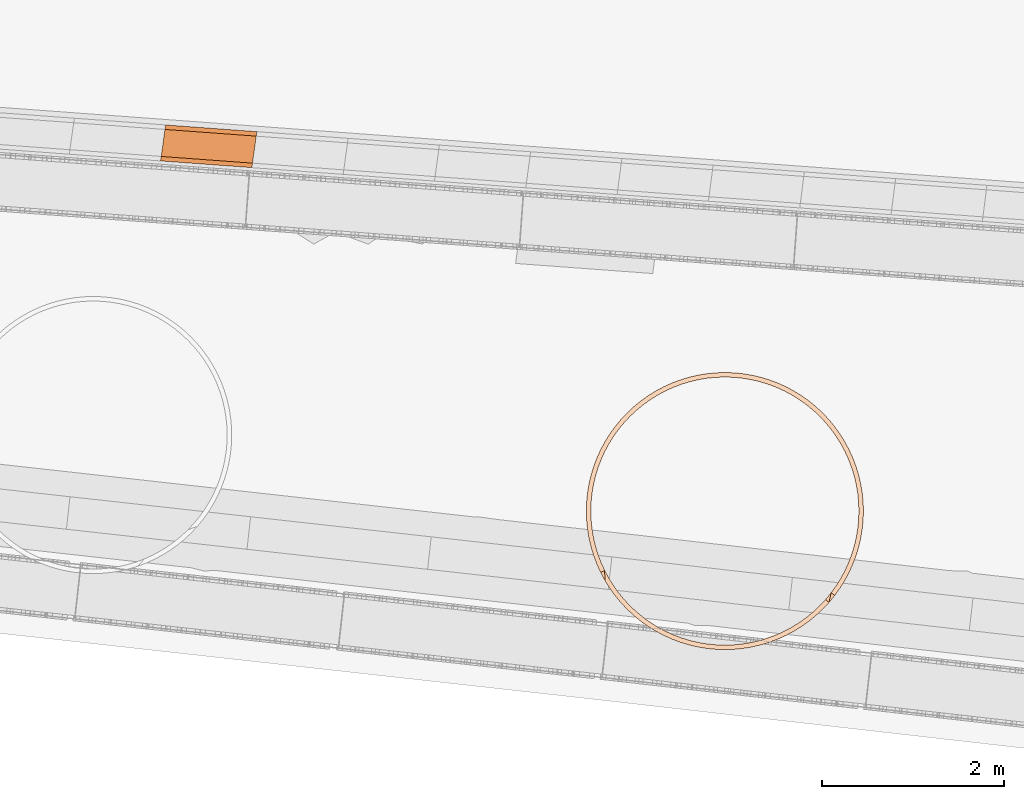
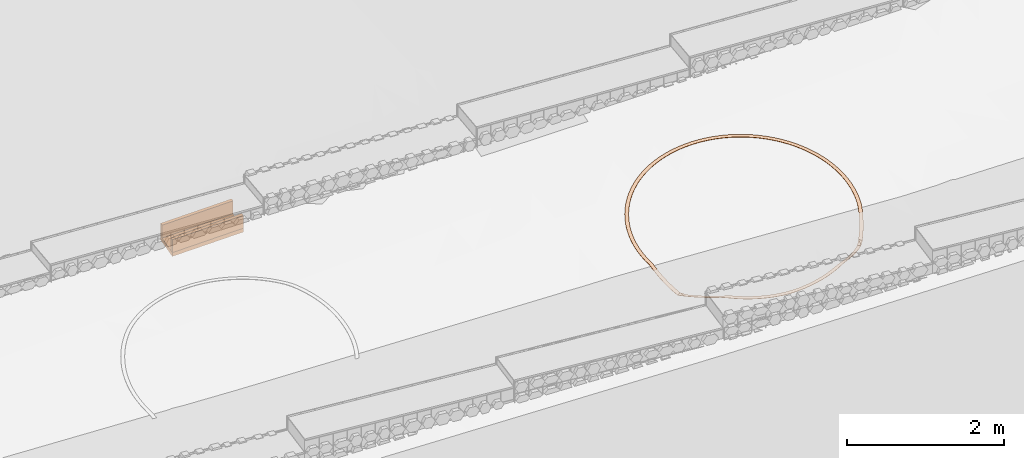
# Not in any storey, part 22 of 46: 3 proxies, 1 geographic element.
"""IFC4 model written with IfcOpenShell, lengths in metres."""

from ifc_helpers import new_model, si_unit, direction, frame, origin_with_axes, place, context, subcontext, project, spatial, polygons, material, element, save


model = new_model("IFC4")

# Units and contexts
model_context = context("Model", 3, precision=1e-05, world=origin_with_axes(), true_north=direction((0.0, 1.0)))
body_context = subcontext(model_context, "Body", "Model", "MODEL_VIEW")
ifc_project = project(units=[si_unit("VOLUMEUNIT", "CUBIC_METRE"), si_unit("LENGTHUNIT", "METRE"), si_unit("AREAUNIT", "SQUARE_METRE")], contexts=[model_context])

# Site
site_placement = place(None, origin_with_axes())
site = spatial("IfcSite", under=ifc_project, at=site_placement, Name="Lares · Rua das Mercês · artigo 4771")

# Proxies
ifc_material_1 = material(Name="Caleiras · betão", Category="concrete")
proxy_1_placement = place(site_placement, frame((0.0, 0.0, 0.0), z_axis=(0.0, 0.0, 1.0), x_axis=(1.0, -1.03767253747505e-17, 0.0)))
element("IfcBuildingElementProxy", 1, at=proxy_1_placement, inside=site, material=ifc_material_1, Name="Acesso · canal lateral", ObjectType="Acesso · canal lateral", PredefinedType="USERDEFINED", context=body_context, shape_type="Tessellation", body=[
    polygons([(54.6079243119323, 2.15614541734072, 13.7833741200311), (54.6631213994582, 2.55231871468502, 13.7833741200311), (55.6677633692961, 2.47844142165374, 13.8578321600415), (55.6125662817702, 2.08226812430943, 13.8578321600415), (54.6079243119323, 2.15614541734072, 13.8433741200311), (54.6631213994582, 2.55231871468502, 13.8433741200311), (55.6677633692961, 2.47844142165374, 13.9178321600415), (55.6125662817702, 2.08226812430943, 13.9178321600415)], [[[4, 3, 2, 1]], [[5, 6, 7, 8]], [[1, 2, 6, 5]], [[2, 3, 7, 6]], [[3, 4, 8, 7]], [[4, 1, 5, 8]]]),
])
proxy_2_placement = place(site_placement, frame((0.0, 0.0, 0.0), z_axis=(0.0, 0.0, 1.0), x_axis=(1.0, -1.03767253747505e-17, 0.0)))
element("IfcBuildingElementProxy", 2, at=proxy_2_placement, inside=site, material=ifc_material_1, Name="Acesso · canal lateral", ObjectType="Acesso · canal lateral", PredefinedType="USERDEFINED", context=body_context, shape_type="Tessellation", body=[
    polygons([(54.6079243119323, 2.15614541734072, 13.8433741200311), (54.614823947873, 2.20566707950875, 13.8433741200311), (55.6194659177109, 2.13178978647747, 13.9178321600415), (55.6125662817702, 2.08226812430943, 13.9178321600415), (54.6079243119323, 2.15614541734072, 14.0433741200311), (54.614823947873, 2.20566707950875, 14.0433741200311), (55.6194659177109, 2.13178978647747, 14.1178321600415), (55.6125662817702, 2.08226812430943, 14.1178321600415)], [[[4, 3, 2, 1]], [[5, 6, 7, 8]], [[1, 2, 6, 5]], [[2, 3, 7, 6]], [[3, 4, 8, 7]], [[4, 1, 5, 8]]]),
])
proxy_3_placement = place(site_placement, frame((0.0, 0.0, 0.0), z_axis=(0.0, 0.0, 1.0), x_axis=(1.0, -1.03767253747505e-17, 0.0)))
element("IfcBuildingElementProxy", 3, at=proxy_3_placement, inside=site, material=ifc_material_1, Name="Acesso · canal lateral", ObjectType="Acesso · canal lateral", PredefinedType="USERDEFINED", context=body_context, shape_type="Tessellation", body=[
    polygons([(54.6562217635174, 2.50279705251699, 13.8433741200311), (54.6631213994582, 2.55231871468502, 13.8433741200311), (55.6677633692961, 2.47844142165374, 13.9178321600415), (55.6608637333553, 2.4289197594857, 13.9178321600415), (54.6562217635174, 2.50279705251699, 14.0433741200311), (54.6631213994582, 2.55231871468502, 14.0433741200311), (55.6677633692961, 2.47844142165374, 14.1178321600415), (55.6608637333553, 2.4289197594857, 14.1178321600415)], [[[4, 3, 2, 1]], [[5, 6, 7, 8]], [[1, 2, 6, 5]], [[2, 3, 7, 6]], [[3, 4, 8, 7]], [[4, 1, 5, 8]]]),
])

# Geographic element
ifc_material_2 = material(Name="Marcação de plantação · linha no terreno", Category="stone")
geographic_element_placement = place(site_placement, frame((0.0, 0.0, 0.0), z_axis=(0.0, 0.0, 1.0), x_axis=(1.0, -1.03767253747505e-17, 0.0)))
element("IfcGeographicElement", 4, at=geographic_element_placement, inside=site, material=ifc_material_2, Name="Marcação no solo · árvore indicativa 08", ObjectType="Marcação no solo · árvore indicativa 08", PredefinedType="USERDEFINED", context=body_context, shape_type="Tessellation", body=[
    polygons([(62.2936032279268, -1.69761370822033, 14.6360946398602), (62.2936032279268, -1.69761370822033, 14.6400946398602), (62.3436032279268, -1.69761370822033, 14.6385540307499), (62.3436032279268, -1.69761370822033, 14.6425540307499), (62.2904451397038, -1.60114409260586, 14.6490453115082), (62.2904451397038, -1.60114409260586, 14.6530453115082), (62.3403380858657, -1.59787393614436, 14.6519437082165), (62.3403380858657, -1.59787393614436, 14.6559437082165), (62.2809843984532, -1.50508757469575, 14.6616298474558), (62.2809843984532, -1.50508757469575, 14.6656298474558), (62.3305566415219, -1.49856126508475, 14.664954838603), (62.3305566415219, -1.49856126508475, 14.668954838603), (62.2652615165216, -1.40985548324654, 14.673794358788), (62.2652615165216, -1.40985548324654, 14.677794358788), (62.3143007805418, -1.40010096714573, 14.6775317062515), (62.3143007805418, -1.40010096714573, 14.6815317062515), (62.2433438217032, -1.31585561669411, 14.6854867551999), (62.2433438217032, -1.31585561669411, 14.6894867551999), (62.2916401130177, -1.30291466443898, 14.6896204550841), (62.2916401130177, -1.30291466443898, 14.6936204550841), (62.2153251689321, -1.22349049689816, 14.6966569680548), (62.2153251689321, -1.22349049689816, 14.7006569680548), (62.2626716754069, -1.207418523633, 14.7011693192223), (62.2626716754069, -1.207418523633, 14.7051693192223), (62.181325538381, -1.13315564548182, 14.7072571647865), (62.181325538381, -1.13315564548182, 14.7112571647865), (62.2275195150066, -1.11402147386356, 14.7121288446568), (62.2275195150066, -1.11402147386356, 14.7161288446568), (62.1414905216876, -1.0452378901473, 14.7172419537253), (62.1414905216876, -1.0452378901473, 14.7212419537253), (62.1863341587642, -1.02312345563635, 14.7224521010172), (62.1863341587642, -1.02312345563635, 14.7264521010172), (62.0959906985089, -0.960113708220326, 14.7265685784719), (62.0959906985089, -0.960113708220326, 14.7305685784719), (62.1392919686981, -0.935113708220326, 14.7320948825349), (62.1392919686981, -0.935113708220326, 14.7360948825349), (62.0450209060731, -0.878147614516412, 14.7351971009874), (62.0450209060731, -0.878147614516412, 14.7391971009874), (62.0865943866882, -0.850369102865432, 14.741015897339), (62.0865943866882, -0.850369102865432, 14.745015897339), (61.9887994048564, -0.799690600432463, 14.7430905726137), (61.9887994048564, -0.799690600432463, 14.7470905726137), (62.028467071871, -0.769252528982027, 14.7491769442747), (62.028467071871, -0.769252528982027, 14.7531769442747), (61.9275669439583, -0.725078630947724, 14.7502151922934), (61.9275669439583, -0.725078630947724, 14.7542151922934), (61.9651589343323, -0.692111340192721, 14.7565430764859), (61.9651589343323, -0.692111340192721, 14.7605430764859), (61.861585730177, -0.654631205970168, 14.7565404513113), (61.861585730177, -0.654631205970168, 14.7605404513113), (61.8969410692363, -0.61927586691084, 14.7630827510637), (61.8969410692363, -0.61927586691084, 14.7670827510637), (61.7911383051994, -0.588649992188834, 14.7620392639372), (61.7911383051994, -0.588649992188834, 14.7660392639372), (61.8241055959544, -0.551058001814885, 14.7687679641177), (61.8241055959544, -0.551058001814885, 14.7727679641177), (61.7165263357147, -0.527417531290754, 14.7666880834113), (61.7165263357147, -0.527417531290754, 14.7706880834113), (61.7469644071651, -0.487749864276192, 14.7735743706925), (61.7469644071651, -0.487749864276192, 14.7775743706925), (61.6380693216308, -0.471196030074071, 14.7704670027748), (61.6380693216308, -0.471196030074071, 14.7744670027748), (61.6658478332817, -0.429622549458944, 14.7774813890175), (61.6658478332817, -0.429622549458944, 14.7814813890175), (61.5561032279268, -0.420226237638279, 14.7733598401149), (61.5561032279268, -0.420226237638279, 14.7773598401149), (61.5811032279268, -0.376924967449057, 14.7804722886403), (61.5811032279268, -0.376924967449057, 14.7844722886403), (61.4709790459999, -0.37472641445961, 14.775354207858), (61.4709790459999, -0.37472641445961, 14.779354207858), (61.4930934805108, -0.329882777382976, 14.7825342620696), (61.4930934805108, -0.329882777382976, 14.7865342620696), (61.3830612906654, -0.334891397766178, 14.7764415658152), (61.3830612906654, -0.334891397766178, 14.7804415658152), (61.4021954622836, -0.288697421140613, 14.7836584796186), (61.4021954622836, -0.288697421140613, 14.7876584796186), (61.292726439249, -0.300891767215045, 14.7766172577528), (61.292726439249, -0.300891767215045, 14.7806172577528), (61.3087984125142, -0.25354526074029, 14.7838401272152), (61.3087984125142, -0.25354526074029, 14.7878401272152), (61.2003613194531, -0.27287311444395, 14.7758805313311), (61.2003613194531, -0.27287311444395, 14.7798805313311), (61.2133022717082, -0.224576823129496, 14.7830784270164), (61.2133022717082, -0.224576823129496, 14.7870784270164), (61.1063614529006, -0.250955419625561, 14.7742345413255), (61.1063614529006, -0.250955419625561, 14.7782345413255), (61.1161159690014, -0.201916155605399, 14.7813766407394), (61.1161159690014, -0.201916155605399, 14.7853766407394), (61.0111293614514, -0.235232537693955, 14.771686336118), (61.0111293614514, -0.235232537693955, 14.775686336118), (61.0176556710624, -0.185660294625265, 14.7787420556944), (61.0176556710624, -0.185660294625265, 14.7827420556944), (60.9150728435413, -0.225771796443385, 14.7682468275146), (60.9150728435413, -0.225771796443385, 14.7722468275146), (60.9183430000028, -0.175878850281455, 14.775185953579), (60.9183430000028, -0.175878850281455, 14.779185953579), (60.8186032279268, -0.222613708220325, 14.7639307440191), (60.8186032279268, -0.222613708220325, 14.7679307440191), (60.8186032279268, -0.172613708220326, 14.7707235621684), (60.8186032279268, -0.172613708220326, 14.7747235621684), (60.7221336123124, -0.225771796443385, 14.7587565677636), (60.7221336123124, -0.225771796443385, 14.7627565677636), (60.7188634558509, -0.175878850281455, 14.7653739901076), (60.7188634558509, -0.175878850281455, 14.7693739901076), (60.6260770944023, -0.235232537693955, 14.7527464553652), (60.6260770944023, -0.235232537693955, 14.7567464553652), (60.6195507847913, -0.185660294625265, 14.7591601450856), (60.6195507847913, -0.185660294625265, 14.7631601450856), (60.5308450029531, -0.250955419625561, 14.745926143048), (60.5308450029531, -0.250955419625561, 14.749926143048), (60.5210904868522, -0.201916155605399, 14.7521086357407), (60.5210904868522, -0.201916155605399, 14.7561086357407), (60.4368451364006, -0.27287311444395, 14.7383248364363), (60.4368451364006, -0.27287311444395, 14.7423248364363), (60.4239041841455, -0.224576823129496, 14.7442496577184), (60.4239041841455, -0.224576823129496, 14.7482496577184), (60.3444800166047, -0.300891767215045, 14.729975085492), (60.3444800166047, -0.300891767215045, 14.733975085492), (60.3284080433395, -0.253545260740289, 14.7356168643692), (60.3284080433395, -0.253545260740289, 14.7396168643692), (60.2541451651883, -0.334891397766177, 14.7209126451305), (60.2541451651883, -0.334891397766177, 14.7249126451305), (60.2350109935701, -0.288697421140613, 14.7262472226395), (60.2350109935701, -0.288697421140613, 14.7302472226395), (60.1662274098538, -0.37472641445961, 14.7111763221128), (60.1662274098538, -0.37472641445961, 14.7151763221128), (60.1441129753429, -0.329882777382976, 14.7161808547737), (60.1441129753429, -0.329882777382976, 14.7201808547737), (60.0811032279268, -0.420226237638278, 14.7008078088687), (60.0811032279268, -0.420226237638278, 14.7048078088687), (60.0561032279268, -0.376924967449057, 14.7054608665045), (60.0561032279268, -0.376924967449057, 14.7094608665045), (59.9991371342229, -0.471196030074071, 14.6898515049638), (59.9991371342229, -0.471196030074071, 14.6938515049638), (59.9713586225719, -0.429622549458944, 14.6941331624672), (59.9713586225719, -0.429622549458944, 14.6981331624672), (59.920680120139, -0.527417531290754, 14.6783543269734), (59.920680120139, -0.527417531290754, 14.6823543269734), (59.8902420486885, -0.487749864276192, 14.6822462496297), (59.8902420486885, -0.487749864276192, 14.6862462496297), (59.8460681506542, -0.588649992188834, 14.6663655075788), (59.8460681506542, -0.588649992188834, 14.6703655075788), (59.8131008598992, -0.551058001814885, 14.6698510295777), (59.8131008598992, -0.551058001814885, 14.6738510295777), (59.7756207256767, -0.654631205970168, 14.6539363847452), (59.7756207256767, -0.654631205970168, 14.6579363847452), (59.7402653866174, -0.61927586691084, 14.6570005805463), (59.7402653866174, -0.61927586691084, 14.6610005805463), (59.7096395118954, -0.725078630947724, 14.6411201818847), (59.7096395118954, -0.725078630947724, 14.6451201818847), (59.6720475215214, -0.69211134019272, 14.6437499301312), (59.6720475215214, -0.69211134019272, 14.6477499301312), (59.6484070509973, -0.799690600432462, 14.6279717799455), (59.6484070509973, -0.799690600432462, 14.6319717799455), (59.6087393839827, -0.769252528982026, 14.6301558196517), (59.6087393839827, -0.769252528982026, 14.6341558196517), (59.5921855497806, -0.878147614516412, 14.6145474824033), (59.5921855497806, -0.878147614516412, 14.6185474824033), (59.5506120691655, -0.850369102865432, 14.6162764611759), (59.5506120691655, -0.850369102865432, 14.6202764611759), (59.5412157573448, -0.960113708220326, 14.6009047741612), (59.5412157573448, -0.960113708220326, 14.6049047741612), (59.4979144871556, -0.935113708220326, 14.6021712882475), (59.4979144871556, -0.935113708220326, 14.6061712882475), (59.4957159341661, -1.0452378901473, 14.5871020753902), (59.4957159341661, -1.0452378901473, 14.5911020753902), (59.4508722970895, -1.02312345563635, 14.5879007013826), (59.4508722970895, -1.02312345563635, 14.5919007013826), (59.4558809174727, -1.13315564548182, 14.5731984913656), (59.4558809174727, -1.13315564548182, 14.5771984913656), (59.4096869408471, -1.11402147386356, 14.573525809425), (59.4096869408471, -1.11402147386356, 14.577525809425), (59.4218812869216, -1.22349049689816, 14.5592535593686), (59.4218812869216, -1.22349049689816, 14.5632535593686), (59.3745347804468, -1.207418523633, 14.5591081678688), (59.3745347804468, -1.207418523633, 14.5631081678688), (59.3938626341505, -1.31585561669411, 14.545326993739), (59.3938626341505, -1.31585561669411, 14.549326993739), (59.345566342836, -1.30291466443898, 14.5447095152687), (59.345566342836, -1.30291466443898, 14.5487095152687), (59.3719449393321, -1.40985548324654, 14.5314784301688), (59.3719449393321, -1.40985548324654, 14.5354784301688), (59.3229056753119, -1.40010096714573, 14.5303915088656), (59.3229056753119, -1.40010096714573, 14.5343915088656), (59.3562220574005, -1.50508757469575, 14.5177671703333), (59.3562220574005, -1.50508757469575, 14.5217671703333), (59.3066498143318, -1.49856126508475, 14.516215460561), (59.3066498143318, -1.49856126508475, 14.520215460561), (59.3467613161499, -1.60114409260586, 14.504251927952), (59.3467613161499, -1.60114409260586, 14.508251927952), (59.296868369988, -1.59787393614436, 14.5022420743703), (59.296868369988, -1.59787393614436, 14.5062420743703), (59.3436032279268, -1.69761370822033, 14.4909905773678), (59.3436032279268, -1.69761370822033, 14.4949905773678), (59.2936032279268, -1.69761370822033, 14.4885311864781), (59.2936032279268, -1.69761370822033, 14.4925311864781), (59.3467613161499, -1.79408332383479, 14.4780399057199), (59.3467613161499, -1.79408332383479, 14.4820399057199), (59.296868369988, -1.79735348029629, 14.4751415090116), (59.296868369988, -1.79735348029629, 14.4791415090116), (59.3562220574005, -1.8901398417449, 14.4654553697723), (59.3562220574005, -1.8901398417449, 14.4694553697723), (59.3066498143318, -1.8966661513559, 14.4621303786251), (59.3066498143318, -1.8966661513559, 14.4661303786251), (59.3719449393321, -1.98537193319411, 14.4223523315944), (59.3719449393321, -1.98537193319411, 14.4263523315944), (59.3229056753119, -1.99512644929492, 14.4125722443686), (59.3229056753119, -1.99512644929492, 14.4165722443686), (59.3938626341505, -2.07937179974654, 14.3742571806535), (59.3938626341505, -2.07937179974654, 14.3782571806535), (59.345566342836, -2.09231275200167, 14.362846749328), (59.345566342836, -2.09231275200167, 14.366846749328), (59.4218812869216, -2.17173691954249, 14.3276034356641), (59.4218812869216, -2.17173691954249, 14.3316034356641), (59.3745347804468, -2.18780889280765, 14.3146115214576), (59.3745347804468, -2.18780889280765, 14.3186115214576), (59.4558809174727, -2.26207177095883, 14.2826066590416), (59.4558809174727, -2.26207177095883, 14.2866066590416), (59.4096869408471, -2.28120594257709, 14.2680731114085), (59.4096869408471, -2.28120594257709, 14.2720731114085), (59.4957159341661, -2.34998952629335, 14.2394800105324), (59.4957159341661, -2.34998952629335, 14.2434800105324), (59.4508722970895, -2.3721039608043, 14.2258119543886), (59.4508722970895, -2.3721039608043, 14.2298119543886), (59.5412157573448, -2.43511370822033, 14.2426554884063), (59.5412157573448, -2.43511370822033, 14.2466554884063), (59.4979144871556, -2.46011370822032, 14.2490219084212), (59.4979144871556, -2.46011370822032, 14.2530219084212), (59.5921855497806, -2.51707980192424, 14.2643002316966), (59.5921855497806, -2.51707980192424, 14.2683002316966), (59.5506120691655, -2.54485831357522, 14.2714003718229), (59.5506120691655, -2.54485831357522, 14.2754003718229), (59.6484070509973, -2.59553681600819, 14.2850480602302), (59.6484070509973, -2.59553681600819, 14.2890480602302), (59.6087393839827, -2.62597488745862, 14.2928515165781), (59.6087393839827, -2.62597488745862, 14.2968515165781), (59.7096395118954, -2.67014878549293, 14.3048101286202), (59.7096395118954, -2.67014878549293, 14.3088101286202), (59.6720475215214, -2.70311607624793, 14.3132834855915), (59.6720475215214, -2.70311607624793, 14.3172834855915), (59.7756207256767, -2.74059621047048, 14.3235018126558), (59.7756207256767, -2.74059621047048, 14.3275018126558), (59.7402653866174, -2.77595154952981, 14.332608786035), (59.7402653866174, -2.77595154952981, 14.336608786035), (59.8460681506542, -2.80657742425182, 14.3410430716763), (59.8460681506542, -2.80657742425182, 14.3450430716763), (59.8131008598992, -2.84416941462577, 14.3507446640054), (59.8131008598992, -2.84416941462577, 14.3547446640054), (59.920680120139, -2.8678098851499, 14.3573587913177), (59.920680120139, -2.8678098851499, 14.3613587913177), (59.8902420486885, -2.90747755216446, 14.3535108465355), (59.8902420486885, -2.90747755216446, 14.3575108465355), (59.9991371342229, -2.92403138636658, 14.3566182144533), (59.9991371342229, -2.92403138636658, 14.3606182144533), (59.9713586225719, -2.96560486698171, 14.3496038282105), (59.9713586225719, -2.96560486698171, 14.3536038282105), (60.0811032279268, -2.97500117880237, 14.3537253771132), (60.0811032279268, -2.97500117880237, 14.3577253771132), (60.0561032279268, -3.01830244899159, 14.3466129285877), (60.0561032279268, -3.01830244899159, 14.3506129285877), (60.1662274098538, -3.02050100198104, 14.3517310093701), (60.1662274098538, -3.02050100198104, 14.3557310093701), (60.1441129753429, -3.06534463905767, 14.3445509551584), (60.1441129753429, -3.06534463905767, 14.3485509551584), (60.2541451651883, -3.06033601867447, 14.3506436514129), (60.2541451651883, -3.06033601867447, 14.3546436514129), (60.2350109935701, -3.10652999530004, 14.3434267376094), (60.2350109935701, -3.10652999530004, 14.3474267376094), (60.3444800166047, -3.09433564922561, 14.3504679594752), (60.3444800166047, -3.09433564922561, 14.3544679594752), (60.3284080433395, -3.14168215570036, 14.3432450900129), (60.3284080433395, -3.14168215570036, 14.3472450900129), (60.4368451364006, -3.1223543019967, 14.351204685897), (60.4368451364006, -3.1223543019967, 14.355204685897), (60.4239041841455, -3.17065059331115, 14.3440067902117), (60.4239041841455, -3.17065059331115, 14.3480067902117), (60.5308450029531, -3.14427199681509, 14.3528506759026), (60.5308450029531, -3.14427199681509, 14.3568506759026), (60.5210904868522, -3.19331126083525, 14.3457085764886), (60.5210904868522, -3.19331126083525, 14.3497085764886), (60.6260770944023, -3.1599948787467, 14.35539888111), (60.6260770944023, -3.1599948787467, 14.35939888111), (60.6195507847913, -3.20956712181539, 14.348943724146), (60.6195507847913, -3.20956712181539, 14.352943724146), (60.7221336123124, -3.16945561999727, 14.3596132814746), (60.7221336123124, -3.16945561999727, 14.3636132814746), (60.7188634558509, -3.2193485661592, 14.356452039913), (60.7188634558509, -3.2193485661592, 14.360452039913), (60.8186032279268, -3.17261370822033, 14.367274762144), (60.8186032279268, -3.17261370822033, 14.371274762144), (60.8186032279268, -3.22261370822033, 14.3643732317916), (60.8186032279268, -3.22261370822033, 14.3683732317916), (60.9150728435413, -3.16945561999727, 14.3753027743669), (60.9150728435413, -3.16945561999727, 14.3793027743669), (60.9183430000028, -3.2193485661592, 14.372673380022), (60.9183430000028, -3.2193485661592, 14.376673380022), (61.0111293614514, -3.1599948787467, 14.3836629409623), (61.0111293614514, -3.1599948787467, 14.3876629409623), (61.0176556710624, -3.20956712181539, 14.3813169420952), (61.0176556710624, -3.20956712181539, 14.3853169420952), (61.1063614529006, -3.14427199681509, 14.3923194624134), (61.1063614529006, -3.14427199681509, 14.3963194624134), (61.1161159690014, -3.19331126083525, 14.3902669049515), (61.1161159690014, -3.19331126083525, 14.3942669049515), (61.2003613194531, -3.1223543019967, 14.4012352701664), (61.2003613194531, -3.1223543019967, 14.4052352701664), (61.2133022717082, -3.17065059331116, 14.3994849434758), (61.2133022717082, -3.17065059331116, 14.4034849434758), (61.292726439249, -3.09433564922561, 14.4103721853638), (61.292726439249, -3.09433564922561, 14.4143721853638), (61.3087984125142, -3.14168215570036, 14.4089315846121), (61.3087984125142, -3.14168215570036, 14.4129315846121), (61.3830612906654, -3.06033601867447, 14.4196910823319), (61.3830612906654, -3.06033601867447, 14.4236910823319), (61.4021954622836, -3.10652999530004, 14.4185663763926), (61.4021954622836, -3.10652999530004, 14.4225663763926), (61.4709790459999, -3.02050100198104, 14.4167426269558), (61.4709790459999, -3.02050100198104, 14.4207426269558), (61.4930934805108, -3.06534463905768, 14.42834806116), (61.4930934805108, -3.06534463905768, 14.43234806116), (61.5561032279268, -2.97500117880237, 14.4043750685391), (61.5561032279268, -2.97500117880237, 14.4083750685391), (61.5811032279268, -3.01830244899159, 14.419975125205), (61.5811032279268, -3.01830244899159, 14.423975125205), (61.6380693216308, -2.92403138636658, 14.390036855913), (61.6380693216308, -2.92403138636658, 14.394036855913), (61.6658478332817, -2.96560486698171, 14.405150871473), (61.6658478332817, -2.96560486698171, 14.409150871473), (61.7165263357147, -2.8678098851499, 14.3737893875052), (61.7165263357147, -2.8678098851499, 14.3777893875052), (61.7469644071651, -2.90747755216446, 14.3883526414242), (61.7469644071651, -2.90747755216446, 14.3923526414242), (61.7911383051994, -2.80657742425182, 14.3557022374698), (61.7911383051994, -2.80657742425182, 14.3597022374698), (61.8241055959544, -2.84416941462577, 14.3696523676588), (61.8241055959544, -2.84416941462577, 14.3736523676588), (61.861585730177, -2.74059621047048, 14.33585285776), (61.861585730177, -2.74059621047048, 14.33985285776), (61.8969410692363, -2.77595154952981, 14.3491301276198), (61.8969410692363, -2.77595154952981, 14.3531301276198), (61.9275669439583, -2.67014878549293, 14.314326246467), (61.9275669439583, -2.67014878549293, 14.318326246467), (61.9651589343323, -2.70311607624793, 14.3268738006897), (61.9651589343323, -2.70311607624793, 14.3308738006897), (61.9887994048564, -2.59553681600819, 14.3438201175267), (61.9887994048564, -2.59553681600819, 14.3478201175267), (62.028467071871, -2.62597488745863, 14.3317825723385), (62.028467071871, -2.62597488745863, 14.3357825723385), (62.0450209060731, -2.51707980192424, 14.3909669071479), (62.0450209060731, -2.51707980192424, 14.3949669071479), (62.0865943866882, -2.54485831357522, 14.3800763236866), (62.0865943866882, -2.54485831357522, 14.3840763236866), (62.0959906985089, -2.43511370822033, 14.4394894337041), (62.0959906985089, -2.43511370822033, 14.4434894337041), (62.1392919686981, -2.46011370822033, 14.4302436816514), (62.1392919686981, -2.46011370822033, 14.4342436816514), (62.1414905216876, -2.34998952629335, 14.4891799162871), (62.1414905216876, -2.34998952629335, 14.4931799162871), (62.1863341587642, -2.3721039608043, 14.4816185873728), (62.1863341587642, -2.3721039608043, 14.4856185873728), (62.181325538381, -2.26207177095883, 14.5398255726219), (62.181325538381, -2.26207177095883, 14.5438255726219), (62.2275195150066, -2.28120594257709, 14.5339810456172), (62.2275195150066, -2.28120594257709, 14.5379810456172), (62.2153251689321, -2.17173691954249, 14.5678316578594), (62.2153251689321, -2.17173691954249, 14.5718316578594), (62.2626716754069, -2.18780889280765, 14.5679770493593), (62.2626716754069, -2.18780889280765, 14.5719770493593), (62.2433438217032, -2.07937179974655, 14.581758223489), (62.2433438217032, -2.07937179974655, 14.585758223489), (62.2916401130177, -2.09231275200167, 14.5823757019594), (62.2916401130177, -2.09231275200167, 14.5863757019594), (62.2652615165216, -1.98537193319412, 14.5956067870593), (62.2652615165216, -1.98537193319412, 14.5996067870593), (62.3143007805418, -1.99512644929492, 14.5966937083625), (62.3143007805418, -1.99512644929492, 14.6006937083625), (62.2809843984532, -1.8901398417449, 14.6093180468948), (62.2809843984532, -1.8901398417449, 14.6133180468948), (62.3305566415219, -1.8966661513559, 14.610869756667), (62.3305566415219, -1.8966661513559, 14.614869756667), (62.2904451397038, -1.79408332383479, 14.622833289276), (62.2904451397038, -1.79408332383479, 14.626833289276), (62.3403380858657, -1.79735348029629, 14.6248431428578), (62.3403380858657, -1.79735348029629, 14.6288431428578)], [[[5, 7, 3, 1]], [[4, 8, 6, 2]], [[2, 6, 5, 1]], [[7, 8, 4, 3]], [[9, 11, 7, 5]], [[8, 12, 10, 6]], [[6, 10, 9, 5]], [[11, 12, 8, 7]], [[13, 15, 11, 9]], [[12, 16, 14, 10]], [[10, 14, 13, 9]], [[15, 16, 12, 11]], [[17, 19, 15, 13]], [[16, 20, 18, 14]], [[14, 18, 17, 13]], [[19, 20, 16, 15]], [[21, 23, 19, 17]], [[20, 24, 22, 18]], [[18, 22, 21, 17]], [[23, 24, 20, 19]], [[25, 27, 23, 21]], [[24, 28, 26, 22]], [[22, 26, 25, 21]], [[27, 28, 24, 23]], [[29, 31, 27, 25]], [[28, 32, 30, 26]], [[26, 30, 29, 25]], [[31, 32, 28, 27]], [[33, 35, 31, 29]], [[32, 36, 34, 30]], [[30, 34, 33, 29]], [[35, 36, 32, 31]], [[37, 39, 35, 33]], [[36, 40, 38, 34]], [[34, 38, 37, 33]], [[39, 40, 36, 35]], [[41, 43, 39, 37]], [[40, 44, 42, 38]], [[38, 42, 41, 37]], [[43, 44, 40, 39]], [[45, 47, 43, 41]], [[44, 48, 46, 42]], [[42, 46, 45, 41]], [[47, 48, 44, 43]], [[49, 51, 47, 45]], [[48, 52, 50, 46]], [[46, 50, 49, 45]], [[51, 52, 48, 47]], [[53, 55, 51, 49]], [[52, 56, 54, 50]], [[50, 54, 53, 49]], [[55, 56, 52, 51]], [[57, 59, 55, 53]], [[56, 60, 58, 54]], [[54, 58, 57, 53]], [[59, 60, 56, 55]], [[61, 63, 59, 57]], [[60, 64, 62, 58]], [[58, 62, 61, 57]], [[63, 64, 60, 59]], [[65, 67, 63, 61]], [[64, 68, 66, 62]], [[62, 66, 65, 61]], [[67, 68, 64, 63]], [[69, 71, 67, 65]], [[68, 72, 70, 66]], [[66, 70, 69, 65]], [[71, 72, 68, 67]], [[73, 75, 71, 69]], [[72, 76, 74, 70]], [[70, 74, 73, 69]], [[75, 76, 72, 71]], [[77, 79, 75, 73]], [[76, 80, 78, 74]], [[74, 78, 77, 73]], [[79, 80, 76, 75]], [[81, 83, 79, 77]], [[80, 84, 82, 78]], [[78, 82, 81, 77]], [[83, 84, 80, 79]], [[85, 87, 83, 81]], [[84, 88, 86, 82]], [[82, 86, 85, 81]], [[87, 88, 84, 83]], [[89, 91, 87, 85]], [[88, 92, 90, 86]], [[86, 90, 89, 85]], [[91, 92, 88, 87]], [[93, 95, 91, 89]], [[92, 96, 94, 90]], [[90, 94, 93, 89]], [[95, 96, 92, 91]], [[97, 99, 95, 93]], [[96, 100, 98, 94]], [[94, 98, 97, 93]], [[99, 100, 96, 95]], [[101, 103, 99, 97]], [[100, 104, 102, 98]], [[98, 102, 101, 97]], [[103, 104, 100, 99]], [[105, 107, 103, 101]], [[104, 108, 106, 102]], [[102, 106, 105, 101]], [[107, 108, 104, 103]], [[109, 111, 107, 105]], [[108, 112, 110, 106]], [[106, 110, 109, 105]], [[111, 112, 108, 107]], [[113, 115, 111, 109]], [[112, 116, 114, 110]], [[110, 114, 113, 109]], [[115, 116, 112, 111]], [[117, 119, 115, 113]], [[116, 120, 118, 114]], [[114, 118, 117, 113]], [[119, 120, 116, 115]], [[121, 123, 119, 117]], [[120, 124, 122, 118]], [[118, 122, 121, 117]], [[123, 124, 120, 119]], [[125, 127, 123, 121]], [[124, 128, 126, 122]], [[122, 126, 125, 121]], [[127, 128, 124, 123]], [[129, 131, 127, 125]], [[128, 132, 130, 126]], [[126, 130, 129, 125]], [[131, 132, 128, 127]], [[133, 135, 131, 129]], [[132, 136, 134, 130]], [[130, 134, 133, 129]], [[135, 136, 132, 131]], [[137, 139, 135, 133]], [[136, 140, 138, 134]], [[134, 138, 137, 133]], [[139, 140, 136, 135]], [[141, 143, 139, 137]], [[140, 144, 142, 138]], [[138, 142, 141, 137]], [[143, 144, 140, 139]], [[145, 147, 143, 141]], [[144, 148, 146, 142]], [[142, 146, 145, 141]], [[147, 148, 144, 143]], [[149, 151, 147, 145]], [[148, 152, 150, 146]], [[146, 150, 149, 145]], [[151, 152, 148, 147]], [[153, 155, 151, 149]], [[152, 156, 154, 150]], [[150, 154, 153, 149]], [[155, 156, 152, 151]], [[157, 159, 155, 153]], [[156, 160, 158, 154]], [[154, 158, 157, 153]], [[159, 160, 156, 155]], [[161, 163, 159, 157]], [[160, 164, 162, 158]], [[158, 162, 161, 157]], [[163, 164, 160, 159]], [[165, 167, 163, 161]], [[164, 168, 166, 162]], [[162, 166, 165, 161]], [[167, 168, 164, 163]], [[169, 171, 167, 165]], [[168, 172, 170, 166]], [[166, 170, 169, 165]], [[171, 172, 168, 167]], [[173, 175, 171, 169]], [[172, 176, 174, 170]], [[170, 174, 173, 169]], [[175, 176, 172, 171]], [[177, 179, 175, 173]], [[176, 180, 178, 174]], [[174, 178, 177, 173]], [[179, 180, 176, 175]], [[181, 183, 179, 177]], [[180, 184, 182, 178]], [[178, 182, 181, 177]], [[183, 184, 180, 179]], [[185, 187, 183, 181]], [[184, 188, 186, 182]], [[182, 186, 185, 181]], [[187, 188, 184, 183]], [[189, 191, 187, 185]], [[188, 192, 190, 186]], [[186, 190, 189, 185]], [[191, 192, 188, 187]], [[193, 195, 191, 189]], [[192, 196, 194, 190]], [[190, 194, 193, 189]], [[195, 196, 192, 191]], [[197, 199, 195, 193]], [[196, 200, 198, 194]], [[194, 198, 197, 193]], [[199, 200, 196, 195]], [[201, 203, 199, 197]], [[200, 204, 202, 198]], [[198, 202, 201, 197]], [[203, 204, 200, 199]], [[205, 207, 203, 201]], [[204, 208, 206, 202]], [[202, 206, 205, 201]], [[207, 208, 204, 203]], [[209, 211, 207, 205]], [[208, 212, 210, 206]], [[206, 210, 209, 205]], [[211, 212, 208, 207]], [[213, 215, 211, 209]], [[212, 216, 214, 210]], [[210, 214, 213, 209]], [[215, 216, 212, 211]], [[217, 219, 215, 213]], [[216, 220, 218, 214]], [[214, 218, 217, 213]], [[219, 220, 216, 215]], [[221, 223, 219, 217]], [[220, 224, 222, 218]], [[218, 222, 221, 217]], [[223, 224, 220, 219]], [[225, 227, 223, 221]], [[224, 228, 226, 222]], [[222, 226, 225, 221]], [[227, 228, 224, 223]], [[229, 231, 227, 225]], [[228, 232, 230, 226]], [[226, 230, 229, 225]], [[231, 232, 228, 227]], [[233, 235, 231, 229]], [[232, 236, 234, 230]], [[230, 234, 233, 229]], [[235, 236, 232, 231]], [[237, 239, 235, 233]], [[236, 240, 238, 234]], [[234, 238, 237, 233]], [[239, 240, 236, 235]], [[241, 243, 239, 237]], [[240, 244, 242, 238]], [[238, 242, 241, 237]], [[243, 244, 240, 239]], [[245, 247, 243, 241]], [[244, 248, 246, 242]], [[242, 246, 245, 241]], [[247, 248, 244, 243]], [[249, 251, 247, 245]], [[248, 252, 250, 246]], [[246, 250, 249, 245]], [[251, 252, 248, 247]], [[253, 255, 251, 249]], [[252, 256, 254, 250]], [[250, 254, 253, 249]], [[255, 256, 252, 251]], [[257, 259, 255, 253]], [[256, 260, 258, 254]], [[254, 258, 257, 253]], [[259, 260, 256, 255]], [[261, 263, 259, 257]], [[260, 264, 262, 258]], [[258, 262, 261, 257]], [[263, 264, 260, 259]], [[265, 267, 263, 261]], [[264, 268, 266, 262]], [[262, 266, 265, 261]], [[267, 268, 264, 263]], [[269, 271, 267, 265]], [[268, 272, 270, 266]], [[266, 270, 269, 265]], [[271, 272, 268, 267]], [[273, 275, 271, 269]], [[272, 276, 274, 270]], [[270, 274, 273, 269]], [[275, 276, 272, 271]], [[277, 279, 275, 273]], [[276, 280, 278, 274]], [[274, 278, 277, 273]], [[279, 280, 276, 275]], [[281, 283, 279, 277]], [[280, 284, 282, 278]], [[278, 282, 281, 277]], [[283, 284, 280, 279]], [[285, 287, 283, 281]], [[284, 288, 286, 282]], [[282, 286, 285, 281]], [[287, 288, 284, 283]], [[289, 291, 287, 285]], [[288, 292, 290, 286]], [[286, 290, 289, 285]], [[291, 292, 288, 287]], [[293, 295, 291, 289]], [[292, 296, 294, 290]], [[290, 294, 293, 289]], [[295, 296, 292, 291]], [[297, 299, 295, 293]], [[296, 300, 298, 294]], [[294, 298, 297, 293]], [[299, 300, 296, 295]], [[301, 303, 299, 297]], [[300, 304, 302, 298]], [[298, 302, 301, 297]], [[303, 304, 300, 299]], [[305, 307, 303, 301]], [[304, 308, 306, 302]], [[302, 306, 305, 301]], [[307, 308, 304, 303]], [[309, 311, 307, 305]], [[308, 312, 310, 306]], [[306, 310, 309, 305]], [[311, 312, 308, 307]], [[313, 315, 311, 309]], [[312, 316, 314, 310]], [[310, 314, 313, 309]], [[315, 316, 312, 311]], [[317, 319, 315, 313]], [[316, 320, 318, 314]], [[314, 318, 317, 313]], [[319, 320, 316, 315]], [[321, 323, 319, 317]], [[320, 324, 322, 318]], [[318, 322, 321, 317]], [[323, 324, 320, 319]], [[325, 327, 323, 321]], [[324, 328, 326, 322]], [[322, 326, 325, 321]], [[327, 328, 324, 323]], [[329, 331, 327, 325]], [[328, 332, 330, 326]], [[326, 330, 329, 325]], [[331, 332, 328, 327]], [[333, 335, 331, 329]], [[332, 336, 334, 330]], [[330, 334, 333, 329]], [[335, 336, 332, 331]], [[337, 339, 335, 333]], [[336, 340, 338, 334]], [[334, 338, 337, 333]], [[339, 340, 336, 335]], [[341, 343, 339, 337]], [[340, 344, 342, 338]], [[338, 342, 341, 337]], [[343, 344, 340, 339]], [[345, 347, 343, 341]], [[344, 348, 346, 342]], [[342, 346, 345, 341]], [[347, 348, 344, 343]], [[349, 351, 347, 345]], [[348, 352, 350, 346]], [[346, 350, 349, 345]], [[351, 352, 348, 347]], [[353, 355, 351, 349]], [[352, 356, 354, 350]], [[350, 354, 353, 349]], [[355, 356, 352, 351]], [[357, 359, 355, 353]], [[356, 360, 358, 354]], [[354, 358, 357, 353]], [[359, 360, 356, 355]], [[361, 363, 359, 357]], [[360, 364, 362, 358]], [[358, 362, 361, 357]], [[363, 364, 360, 359]], [[365, 367, 363, 361]], [[364, 368, 366, 362]], [[362, 366, 365, 361]], [[367, 368, 364, 363]], [[369, 371, 367, 365]], [[368, 372, 370, 366]], [[366, 370, 369, 365]], [[371, 372, 368, 367]], [[373, 375, 371, 369]], [[372, 376, 374, 370]], [[370, 374, 373, 369]], [[375, 376, 372, 371]], [[377, 379, 375, 373]], [[376, 380, 378, 374]], [[374, 378, 377, 373]], [[379, 380, 376, 375]], [[381, 383, 379, 377]], [[380, 384, 382, 378]], [[378, 382, 381, 377]], [[383, 384, 380, 379]], [[1, 3, 383, 381]], [[384, 4, 2, 382]], [[382, 2, 1, 381]], [[3, 4, 384, 383]]]),
])

save(model, "model.ifc")
